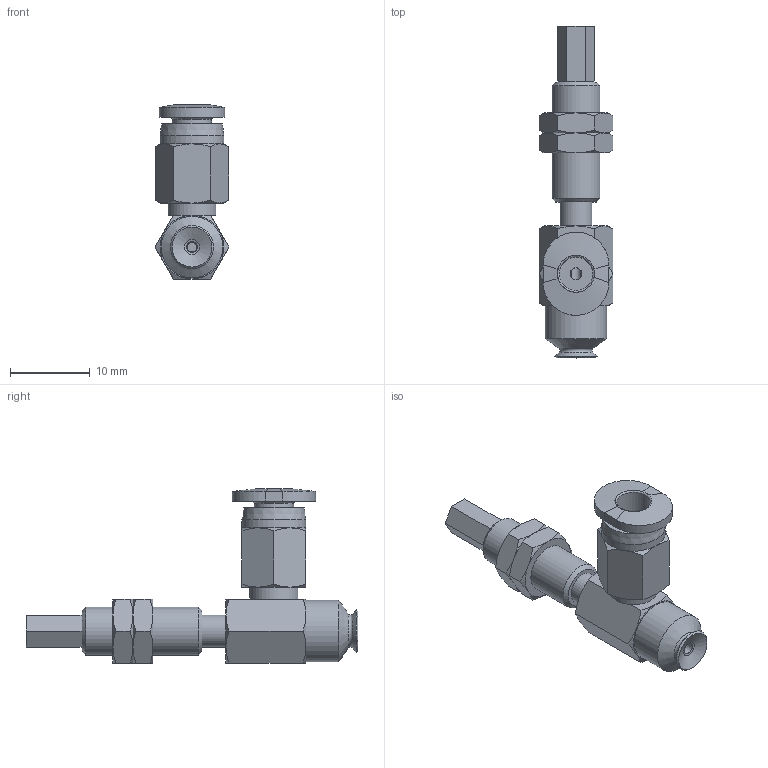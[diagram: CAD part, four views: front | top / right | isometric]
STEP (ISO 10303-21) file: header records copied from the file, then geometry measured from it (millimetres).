
FILE_DESCRIPTION(('STEP AP203'),'1');
FILE_NAME('-O.stp','2025-04-09T05:32:33',(' '),(' '),'Spatial InterOp 3D',' ',' ');
FILE_SCHEMA(('CONFIG_CONTROL_DESIGN'));
Length unit declared in the file: millimetre
Products named in the file (7): BNABPFYS-5A-3-※-O; CONNECTOR-5A-3; Nut-5A-3-s; NAPFTS-5A-3-FBODY; NAPFTS-5A-3-MBODY; BPFG-5A-※; PC-C_04-M3
Assembly tree (7 placements, depth 2):
  BNABPFYS-5A-3-※-O
    CONNECTOR-5A-3
    Nut-5A-3-s  x2
    NAPFTS-5A-3-FBODY
    NAPFTS-5A-3-MBODY
    BPFG-5A-※
    PC-C_04-M3
Bounding box: 9.24 x 41.5 x 21.77 mm (x, y, z)
Volume: 1449.8 mm3; surface area: 2918.3 mm2
Topology: 6 solids, 8 shells, 182 faces, 380 edges, 227 vertices
Faces by surface type: plane 73, cone 68, cylinder 24, torus 9, bspline 5, revolution 3
Full cylindrical faces by diameter (mm): 1.2 x1, 1.4 x1, 2.459 x2, 2.5 x2, 3 x2, 4 x4, 4.9 x1, 5.188 x2, 6 x4, 6.1 x1, 7.7 x1, 8 x1
Entity records: 4655 total; most frequent: CARTESIAN_POINT 1274, DIRECTION 631, ORIENTED_EDGE 546, AXIS2_PLACEMENT_3D 277, EDGE_CURVE 274, EDGE_LOOP 232, VERTEX_POINT 190, FACE_OUTER_BOUND 130
